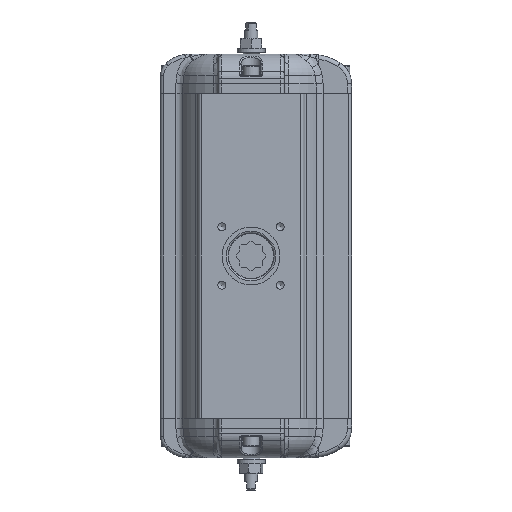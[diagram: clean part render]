
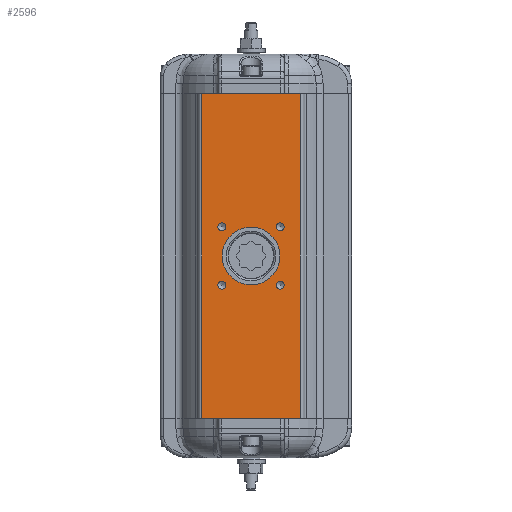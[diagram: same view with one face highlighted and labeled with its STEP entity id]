
A CAD part, front view. The second image highlights one B-rep face of the part: STEP entity #2596.
In plain terms, the highlighted planar face has unit normal (0, -1, 0).
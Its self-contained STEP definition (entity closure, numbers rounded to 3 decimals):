
#644=CARTESIAN_POINT('',(-30.0,-56.,98.5));
#645=VERTEX_POINT('',#644);
#653=CARTESIAN_POINT('',(30.0,-56.,98.5));
#654=VERTEX_POINT('',#653);
#655=CARTESIAN_POINT('',(30.0,-56.,98.5));
#656=DIRECTION('',(-1.0,0.0,0.0));
#657=VECTOR('',#656,60.0);
#658=LINE('',#655,#657);
#659=EDGE_CURVE('',#654,#645,#658,.T.);
#993=CARTESIAN_POINT('',(30.0,-56.,-98.5));
#994=VERTEX_POINT('',#993);
#1002=CARTESIAN_POINT('',(-30.0,-56.,-98.5));
#1003=VERTEX_POINT('',#1002);
#1004=CARTESIAN_POINT('',(-30.0,-56.,-98.5));
#1005=DIRECTION('',(1.0,0.0,0.0));
#1006=VECTOR('',#1005,60.0);
#1007=LINE('',#1004,#1006);
#1008=EDGE_CURVE('',#1003,#994,#1007,.T.);
#1578=CARTESIAN_POINT('',(-15.219,-56.,17.678));
#1579=VERTEX_POINT('',#1578);
#1580=CARTESIAN_POINT('',(-17.678,-56.,17.678));
#1581=DIRECTION('',(0.0,1.0,0.0));
#1582=DIRECTION('',(1.0,0.0,0.0));
#1583=AXIS2_PLACEMENT_3D('',#1580,#1581,#1582);
#1584=CIRCLE('',#1583,2.459);
#1585=EDGE_CURVE('',#1579,#1579,#1584,.T.);
#1657=CARTESIAN_POINT('',(20.136,-56.,-17.678));
#1658=VERTEX_POINT('',#1657);
#1659=CARTESIAN_POINT('',(17.678,-56.,-17.678));
#1660=DIRECTION('',(0.0,1.0,0.0));
#1661=DIRECTION('',(1.0,0.0,0.0));
#1662=AXIS2_PLACEMENT_3D('',#1659,#1660,#1661);
#1663=CIRCLE('',#1662,2.459);
#1664=EDGE_CURVE('',#1658,#1658,#1663,.T.);
#1736=CARTESIAN_POINT('',(-15.219,-56.,-17.678));
#1737=VERTEX_POINT('',#1736);
#1738=CARTESIAN_POINT('',(-17.678,-56.,-17.678));
#1739=DIRECTION('',(0.0,1.0,0.0));
#1740=DIRECTION('',(1.0,0.0,0.0));
#1741=AXIS2_PLACEMENT_3D('',#1738,#1739,#1740);
#1742=CIRCLE('',#1741,2.459);
#1743=EDGE_CURVE('',#1737,#1737,#1742,.T.);
#1815=CARTESIAN_POINT('',(20.136,-56.,17.678));
#1816=VERTEX_POINT('',#1815);
#1817=CARTESIAN_POINT('',(17.678,-56.,17.678));
#1818=DIRECTION('',(0.0,1.0,0.0));
#1819=DIRECTION('',(1.0,0.0,0.0));
#1820=AXIS2_PLACEMENT_3D('',#1817,#1818,#1819);
#1821=CIRCLE('',#1820,2.459);
#1822=EDGE_CURVE('',#1816,#1816,#1821,.T.);
#1835=CARTESIAN_POINT('',(0.0,-56.,17.5));
#1836=VERTEX_POINT('',#1835);
#1837=CARTESIAN_POINT('',(0.0,-56.,0.0));
#1838=DIRECTION('',(0.0,1.0,0.0));
#1839=DIRECTION('',(0.0,0.0,1.0));
#1840=AXIS2_PLACEMENT_3D('',#1837,#1838,#1839);
#1841=CIRCLE('',#1840,17.5);
#1842=EDGE_CURVE('',#1836,#1836,#1841,.T.);
#2549=CARTESIAN_POINT('',(30.0,-56.,98.5));
#2550=DIRECTION('',(0.0,0.0,-1.0));
#2551=VECTOR('',#2550,197.);
#2552=LINE('',#2549,#2551);
#2553=EDGE_CURVE('',#654,#994,#2552,.T.);
#2565=CARTESIAN_POINT('',(32.0,-56.,0.0));
#2566=DIRECTION('',(0.0,-1.0,0.0));
#2567=DIRECTION('',(0.0,0.0,-1.0));
#2568=AXIS2_PLACEMENT_3D('',#2565,#2566,#2567);
#2569=PLANE('',#2568);
#2570=ORIENTED_EDGE('',*,*,#2553,.F.);
#2571=ORIENTED_EDGE('',*,*,#659,.T.);
#2572=CARTESIAN_POINT('',(-30.0,-56.,-98.5));
#2573=DIRECTION('',(0.0,0.0,1.0));
#2574=VECTOR('',#2573,197.);
#2575=LINE('',#2572,#2574);
#2576=EDGE_CURVE('',#1003,#645,#2575,.T.);
#2577=ORIENTED_EDGE('',*,*,#2576,.F.);
#2578=ORIENTED_EDGE('',*,*,#1008,.T.);
#2579=EDGE_LOOP('',(#2570,#2571,#2577,#2578));
#2580=FACE_OUTER_BOUND('',#2579,.T.);
#2581=ORIENTED_EDGE('',*,*,#1585,.T.);
#2582=EDGE_LOOP('',(#2581));
#2583=FACE_BOUND('',#2582,.T.);
#2584=ORIENTED_EDGE('',*,*,#1664,.T.);
#2585=EDGE_LOOP('',(#2584));
#2586=FACE_BOUND('',#2585,.T.);
#2587=ORIENTED_EDGE('',*,*,#1743,.T.);
#2588=EDGE_LOOP('',(#2587));
#2589=FACE_BOUND('',#2588,.T.);
#2590=ORIENTED_EDGE('',*,*,#1822,.T.);
#2591=EDGE_LOOP('',(#2590));
#2592=FACE_BOUND('',#2591,.T.);
#2593=ORIENTED_EDGE('',*,*,#1842,.T.);
#2594=EDGE_LOOP('',(#2593));
#2595=FACE_BOUND('',#2594,.T.);
#2596=ADVANCED_FACE('',(#2580,#2583,#2586,#2589,#2592,#2595),#2569,.T.);
